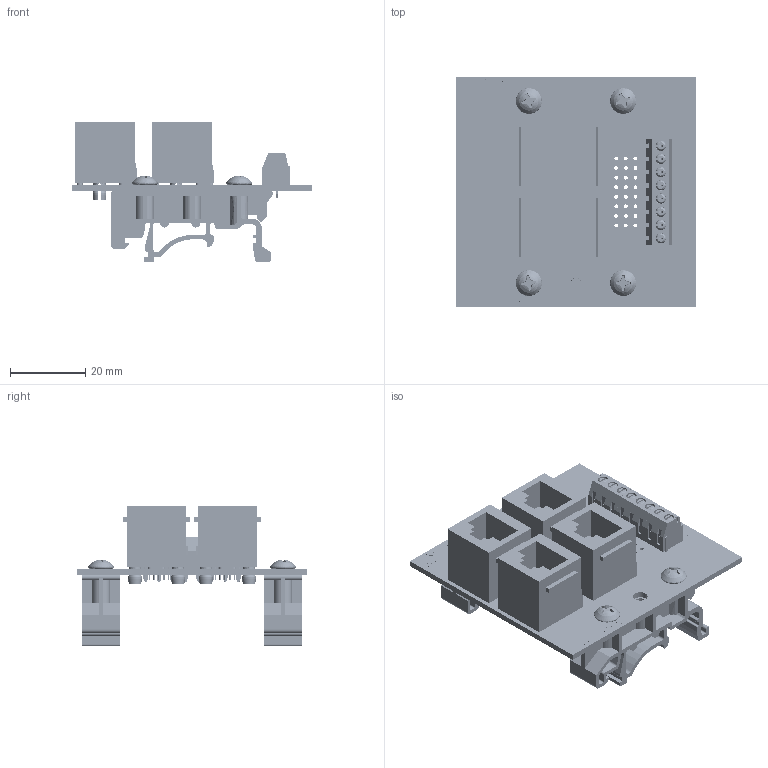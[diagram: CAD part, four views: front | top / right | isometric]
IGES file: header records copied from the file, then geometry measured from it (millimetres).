
Start section: SolidWorks IGES file using analytic representation for surfaces
Global section: file name: C:\Users\Jonny\Documents\Winford Engineering Jobs\BRK8P8C\BRK8P8C4B\brk8p8c4b-s-din_rev_a.igs; native system: SolidWorks 2017; preprocessor: SolidWorks 2017; author: Jonny; date: 171216.223213; units: inch
Bounding box: 63.5 x 60.96 x 37.33 mm (x, y, z)
Surface area: 29355.8 mm2 (no closed solid volume)
Topology: 0 solids, 0 shells, 2683 faces, 21481 edges, 21481 vertices
Faces by surface type: bspline 1815, revolution 868
